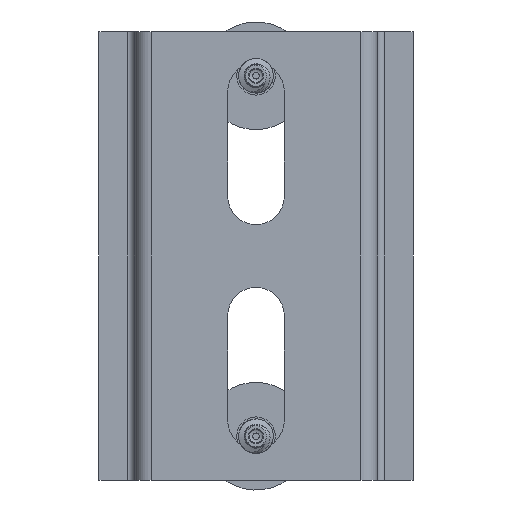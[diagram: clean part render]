
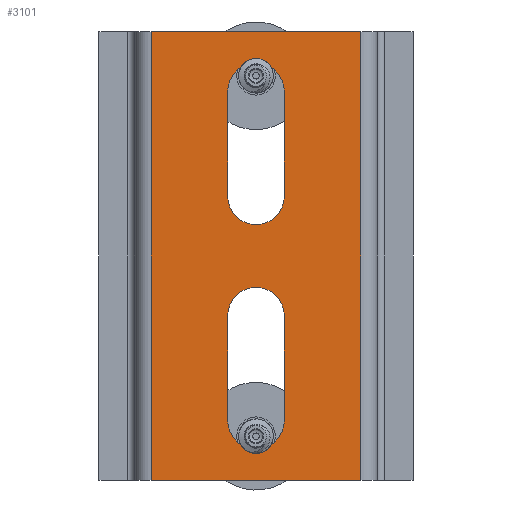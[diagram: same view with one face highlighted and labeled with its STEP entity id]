
A CAD part, front view. The second image highlights one B-rep face of the part: STEP entity #3101.
In plain terms, the highlighted planar face has unit normal (0, -1, 0).
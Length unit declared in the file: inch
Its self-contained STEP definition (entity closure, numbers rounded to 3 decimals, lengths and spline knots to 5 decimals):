
#45 = DIRECTION ( 'NONE',  ( 0., 0., 1. ) ) ;
#351 = CIRCLE ( 'NONE', #1673, 0.12402 ) ;
#405 = AXIS2_PLACEMENT_3D ( 'NONE', #9158, #6233, #3280 ) ;
#540 = VERTEX_POINT ( 'NONE', #4966 ) ;
#567 = DIRECTION ( 'NONE',  ( 0., 1., 0. ) ) ;
#637 = ORIENTED_EDGE ( 'NONE', *, *, #3449, .T. ) ;
#734 = CARTESIAN_POINT ( 'NONE',  ( 0., 0., 1.24606 ) ) ;
#810 = FACE_BOUND ( 'NONE', #5044, .T. ) ;
#1182 = LINE ( 'NONE', #4304, #6165 ) ;
#1296 = CIRCLE ( 'NONE', #8319, 0.12402 ) ;
#1301 = CARTESIAN_POINT ( 'NONE',  ( 0., 0., 1.70669 ) ) ;
#1372 = ORIENTED_EDGE ( 'NONE', *, *, #1643, .T. ) ;
#1385 = EDGE_CURVE ( 'NONE', #4723, #4831, #7828, .T. ) ;
#1448 = EDGE_CURVE ( 'NONE', #7847, #540, #2765, .T. ) ;
#1637 = VERTEX_POINT ( 'NONE', #5996 ) ;
#1643 = EDGE_CURVE ( 'NONE', #2026, #7847, #1182, .T. ) ;
#1673 = AXIS2_PLACEMENT_3D ( 'NONE', #1301, #567, #3441 ) ;
#1715 = EDGE_LOOP ( 'NONE', ( #2342, #8381, #6788, #4032 ) ) ;
#1851 = ORIENTED_EDGE ( 'NONE', *, *, #2914, .T. ) ;
#1853 = DIRECTION ( 'NONE',  ( 0., 0., -1. ) ) ;
#1861 = CARTESIAN_POINT ( 'NONE',  ( -0.12402, 0., 1.70669 ) ) ;
#1901 = EDGE_CURVE ( 'NONE', #3457, #4831, #9234, .T. ) ;
#2026 = VERTEX_POINT ( 'NONE', #4752 ) ;
#2163 = LINE ( 'NONE', #3272, #8855 ) ;
#2173 = CARTESIAN_POINT ( 'NONE',  ( -0.12402, 0., 1.70669 ) ) ;
#2188 = ORIENTED_EDGE ( 'NONE', *, *, #1448, .T. ) ;
#2342 = ORIENTED_EDGE ( 'NONE', *, *, #3759, .F. ) ;
#2493 = VERTEX_POINT ( 'NONE', #7344 ) ;
#2527 = CARTESIAN_POINT ( 'NONE',  ( 0.46063, 0., 1.9685 ) ) ;
#2529 = FACE_BOUND ( 'NONE', #8923, .T. ) ;
#2552 = CARTESIAN_POINT ( 'NONE',  ( -0.46063, 0., 0. ) ) ;
#2765 = CIRCLE ( 'NONE', #7076, 0.12402 ) ;
#2793 = DIRECTION ( 'NONE',  ( 0., 1., 0. ) ) ;
#2914 = EDGE_CURVE ( 'NONE', #540, #7864, #4548, .T. ) ;
#2991 = CARTESIAN_POINT ( 'NONE',  ( 0.12402, 0., 0.72244 ) ) ;
#3088 = CARTESIAN_POINT ( 'NONE',  ( -0.46063, 0., 1.9685 ) ) ;
#3101 = ADVANCED_FACE ( 'NONE', ( #3979, #2529, #810 ), #7518, .T. ) ;
#3169 = DIRECTION ( 'NONE',  ( 0., 0., -1. ) ) ;
#3203 = VERTEX_POINT ( 'NONE', #2527 ) ;
#3272 = CARTESIAN_POINT ( 'NONE',  ( 0.12402, 0., 0.72244 ) ) ;
#3280 = DIRECTION ( 'NONE',  ( 0., 0., -1. ) ) ;
#3292 = VECTOR ( 'NONE', #6648, 39.37008 ) ;
#3346 = CARTESIAN_POINT ( 'NONE',  ( -0.46063, 0., 78.74016 ) ) ;
#3441 = DIRECTION ( 'NONE',  ( 0., 0., -1. ) ) ;
#3449 = EDGE_CURVE ( 'NONE', #7565, #3753, #8534, .T. ) ;
#3457 = VERTEX_POINT ( 'NONE', #9092 ) ;
#3483 = DIRECTION ( 'NONE',  ( 0., 0., -1. ) ) ;
#3753 = VERTEX_POINT ( 'NONE', #2991 ) ;
#3759 = EDGE_CURVE ( 'NONE', #3457, #3203, #8868, .T. ) ;
#3814 = LINE ( 'NONE', #6928, #4840 ) ;
#3979 = FACE_OUTER_BOUND ( 'NONE', #1715, .T. ) ;
#4018 = DIRECTION ( 'NONE',  ( 0., 0., -1. ) ) ;
#4032 = ORIENTED_EDGE ( 'NONE', *, *, #8872, .F. ) ;
#4176 = VECTOR ( 'NONE', #5679, 39.37008 ) ;
#4188 = EDGE_CURVE ( 'NONE', #3753, #1637, #2163, .T. ) ;
#4304 = CARTESIAN_POINT ( 'NONE',  ( 0.12402, 0., 1.70669 ) ) ;
#4315 = CARTESIAN_POINT ( 'NONE',  ( -0.12402, 0., 0.72244 ) ) ;
#4463 = ORIENTED_EDGE ( 'NONE', *, *, #6866, .T. ) ;
#4548 = LINE ( 'NONE', #2173, #6251 ) ;
#4552 = EDGE_CURVE ( 'NONE', #7864, #2026, #351, .T. ) ;
#4561 = ORIENTED_EDGE ( 'NONE', *, *, #7981, .T. ) ;
#4723 = VERTEX_POINT ( 'NONE', #9398 ) ;
#4739 = DIRECTION ( 'NONE',  ( 0., 0., -1. ) ) ;
#4752 = CARTESIAN_POINT ( 'NONE',  ( 0.12402, 0., 1.70669 ) ) ;
#4831 = VERTEX_POINT ( 'NONE', #5898 ) ;
#4840 = VECTOR ( 'NONE', #1853, 39.37008 ) ;
#4934 = CARTESIAN_POINT ( 'NONE',  ( -0.12402, 0., 0.72244 ) ) ;
#4966 = CARTESIAN_POINT ( 'NONE',  ( -0.12402, 0., 1.24606 ) ) ;
#5044 = EDGE_LOOP ( 'NONE', ( #637, #8361, #4463, #4561 ) ) ;
#5310 = LINE ( 'NONE', #4934, #4176 ) ;
#5378 = VECTOR ( 'NONE', #4018, 39.37008 ) ;
#5564 = AXIS2_PLACEMENT_3D ( 'NONE', #8198, #8921, #3169 ) ;
#5679 = DIRECTION ( 'NONE',  ( 0., 0., 1. ) ) ;
#5898 = CARTESIAN_POINT ( 'NONE',  ( -0.46063, 0., 0. ) ) ;
#5992 = VECTOR ( 'NONE', #7583, 39.37008 ) ;
#5996 = CARTESIAN_POINT ( 'NONE',  ( 0.12402, 0., 0.26181 ) ) ;
#6093 = CARTESIAN_POINT ( 'NONE',  ( 0., 0., 0.26181 ) ) ;
#6165 = VECTOR ( 'NONE', #6731, 39.37008 ) ;
#6233 = DIRECTION ( 'NONE',  ( 0., 1., 0. ) ) ;
#6251 = VECTOR ( 'NONE', #45, 39.37008 ) ;
#6648 = DIRECTION ( 'NONE',  ( 1., 0., 0. ) ) ;
#6705 = ORIENTED_EDGE ( 'NONE', *, *, #4552, .T. ) ;
#6731 = DIRECTION ( 'NONE',  ( 0., 0., -1. ) ) ;
#6788 = ORIENTED_EDGE ( 'NONE', *, *, #1385, .F. ) ;
#6866 = EDGE_CURVE ( 'NONE', #1637, #2493, #1296, .T. ) ;
#6928 = CARTESIAN_POINT ( 'NONE',  ( 0.46063, 0., 78.74016 ) ) ;
#7076 = AXIS2_PLACEMENT_3D ( 'NONE', #734, #7269, #7247 ) ;
#7247 = DIRECTION ( 'NONE',  ( 0., 0., -1. ) ) ;
#7269 = DIRECTION ( 'NONE',  ( 0., 1., 0. ) ) ;
#7344 = CARTESIAN_POINT ( 'NONE',  ( -0.12402, 0., 0.26181 ) ) ;
#7518 = PLANE ( 'NONE',  #5564 ) ;
#7565 = VERTEX_POINT ( 'NONE', #4315 ) ;
#7583 = DIRECTION ( 'NONE',  ( -1., 0., 0. ) ) ;
#7828 = LINE ( 'NONE', #2552, #5992 ) ;
#7847 = VERTEX_POINT ( 'NONE', #9122 ) ;
#7864 = VERTEX_POINT ( 'NONE', #1861 ) ;
#7981 = EDGE_CURVE ( 'NONE', #2493, #7565, #5310, .T. ) ;
#8198 = CARTESIAN_POINT ( 'NONE',  ( -0.46063, 0., 78.74016 ) ) ;
#8319 = AXIS2_PLACEMENT_3D ( 'NONE', #6093, #2793, #3483 ) ;
#8361 = ORIENTED_EDGE ( 'NONE', *, *, #4188, .T. ) ;
#8381 = ORIENTED_EDGE ( 'NONE', *, *, #1901, .T. ) ;
#8534 = CIRCLE ( 'NONE', #405, 0.12402 ) ;
#8855 = VECTOR ( 'NONE', #4739, 39.37008 ) ;
#8868 = LINE ( 'NONE', #3088, #3292 ) ;
#8872 = EDGE_CURVE ( 'NONE', #3203, #4723, #3814, .T. ) ;
#8921 = DIRECTION ( 'NONE',  ( 0., -1., 0. ) ) ;
#8923 = EDGE_LOOP ( 'NONE', ( #6705, #1372, #2188, #1851 ) ) ;
#9092 = CARTESIAN_POINT ( 'NONE',  ( -0.46063, 0., 1.9685 ) ) ;
#9122 = CARTESIAN_POINT ( 'NONE',  ( 0.12402, 0., 1.24606 ) ) ;
#9158 = CARTESIAN_POINT ( 'NONE',  ( 0., 0., 0.72244 ) ) ;
#9234 = LINE ( 'NONE', #3346, #5378 ) ;
#9398 = CARTESIAN_POINT ( 'NONE',  ( 0.46063, 0., 0. ) ) ;
